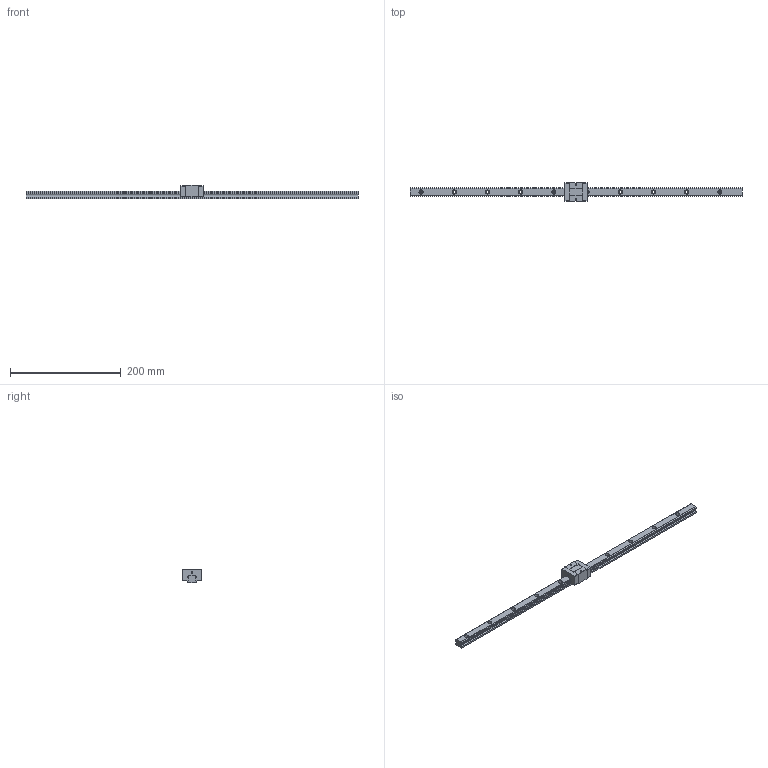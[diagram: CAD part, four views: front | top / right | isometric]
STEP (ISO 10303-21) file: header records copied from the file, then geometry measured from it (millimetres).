
FILE_DESCRIPTION (( 'STEP AP203' ), '1' );
FILE_NAME ('TRS15VS-XN.STEP', '2023-02-08T02:36:38', ( '' ), ( '' ), 'SwSTEP 2.0', 'SolidWorks 2019', '' );
FILE_SCHEMA (( 'CONFIG_CONTROL_DESIGN' ));
Length unit declared in the file: millimetre
Products named in the file (1): TRS15VS-XN
Bounding box: 600 x 34 x 24 mm (x, y, z)
Volume: 123294.5 mm3; surface area: 43612.6 mm2
Topology: 2 solids, 2 shells, 150 faces, 376 edges, 244 vertices
Faces by surface type: plane 82, cylinder 68
Entity records: 4611 total; most frequent: DIRECTION 814, CARTESIAN_POINT 771, ORIENTED_EDGE 752, EDGE_CURVE 376, AXIS2_PLACEMENT_3D 287, VERTEX_POINT 244, LINE 240, VECTOR 240
